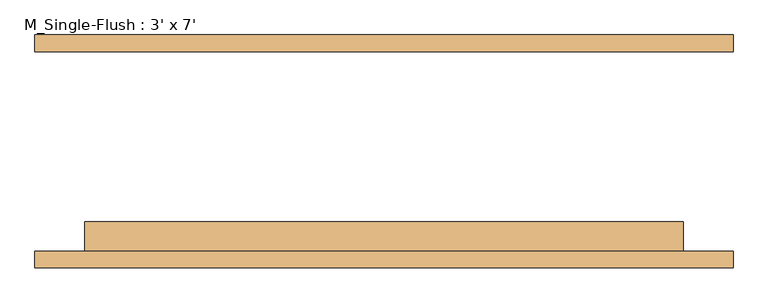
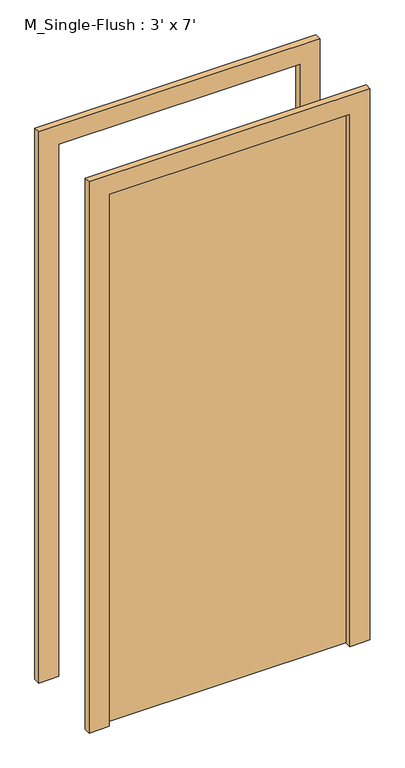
"""IFC4 building model written with IfcOpenShell, lengths in millimetres: door geometry, M_Single-Flush : 3' x 7'."""

from ifc_helpers import new_model, si_unit, frame, origin, origin_with_axes, place, context, project, spatial, polyline, outline, extrude, source, transform, mapped, element, save


def m_single_flush_3_x_7_7cb89e25(model_context):
    return source(origin(), model_context, "Body", "SweptSolid", [
        extrude(outline(polyline([(2209.8, -533.4), (0.0, -533.4), (0.0, -457.2), (2133.6, -457.2), (2133.6, 457.2), (0.0, 457.2), (0.0, 533.4), (2209.8, 533.4), (2209.8, -533.4)])), frame((0.0, -177.8, 0.0), z_axis=(0.0, 1.0, 0.0), x_axis=(0.0, 0.0, 1.0)), (0.0, 0.0, 1.0), 25.4),
        extrude(outline(polyline([(2209.8, 533.4), (2209.8, -533.4), (0.0, -533.4), (0.0, -457.2), (2133.6, -457.2), (2133.6, 457.2), (0.0, 457.2), (0.0, 533.4), (2209.8, 533.4)])), frame((0.0, 152.4, 0.0), z_axis=(0.0, 1.0, 0.0), x_axis=(0.0, 0.0, 1.0)), (0.0, 0.0, 1.0), 25.4),
        extrude(outline(polyline([(457.2, -107.95), (457.2, -152.4), (-457.2, -152.4), (-457.2, -107.95), (457.2, -107.95)])), origin_with_axes(), (0.0, 0.0, 1.0), 2133.6),
    ])


if __name__ == "__main__":
    model = new_model("IFC4")
    model_context = context("Model", 3, world=origin())
    ifc_project = project(units=[si_unit("LENGTHUNIT", "METRE", prefix="MILLI")], contexts=[model_context])
    site = spatial("IfcSite", under=ifc_project)
    building = spatial("IfcBuilding", under=site)
    placement = place(None, origin())
    m_single_flush_3_x_7_shape = m_single_flush_3_x_7_7cb89e25(model_context)
    element("IfcDoor", 1, ObjectType="M_Single-Flush : 3' x 7'", at=placement, inside=building, context=model_context, shape_type="MappedRepresentation", body=[
        mapped(m_single_flush_3_x_7_shape, transform((0.0, 0.0, 0.0), x_axis=(1.0, 0.0, 0.0), y_axis=(0.0, 1.0, 0.0), z_axis=(0.0, 0.0, 1.0))),
    ])
    save(model, "model.ifc")
